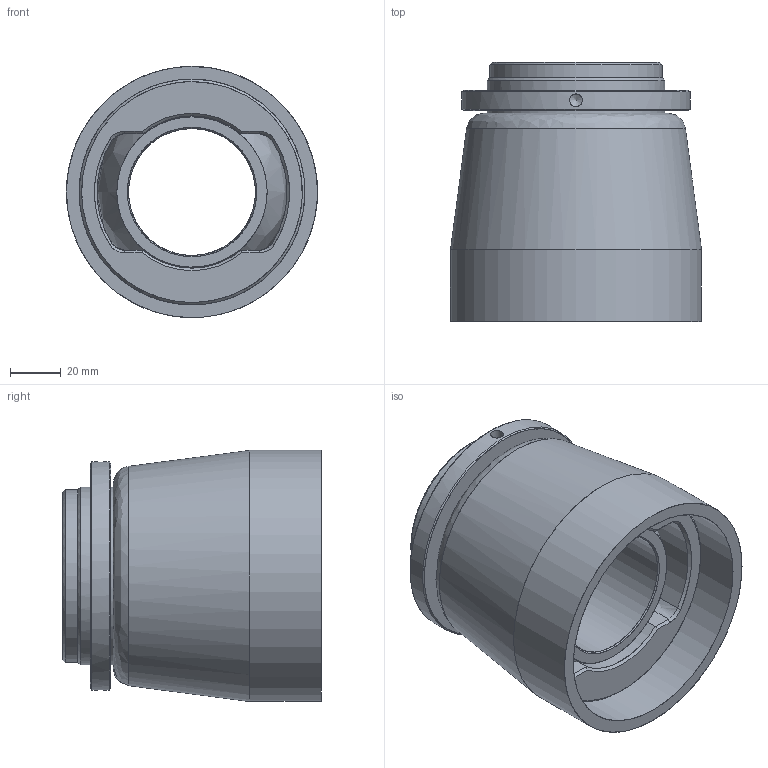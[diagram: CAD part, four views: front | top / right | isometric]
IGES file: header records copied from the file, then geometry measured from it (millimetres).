
Start section: Missler Software 3 rue Hermes, EUROPARC, 31520 Ramonville-Saint-Agne, France Tel   : +33 (0)5 61 00 03 00 Fax   : +33 (0)5 61 00 03 03 Email : sup.solid@topsolid.com
Global section: file name: Z:\J\Jp3\Palier\Palier-type1\3D TopSolid 2011\Serie 10.xx.xx\10.14.xx\10.14.05.igs; native system: TopSolid v611200 Missler Software; preprocessor: IGES preprocessor v100000; author: TAPIN; date: 120223.142618; units: millimetre
Bounding box: 99 x 102.1 x 99 mm (x, y, z)
Surface area: 121976.9 mm2 (no closed solid volume)
Topology: 0 solids, 0 shells, 67 faces, 1039 edges, 1015 vertices
Faces by surface type: bspline 67
